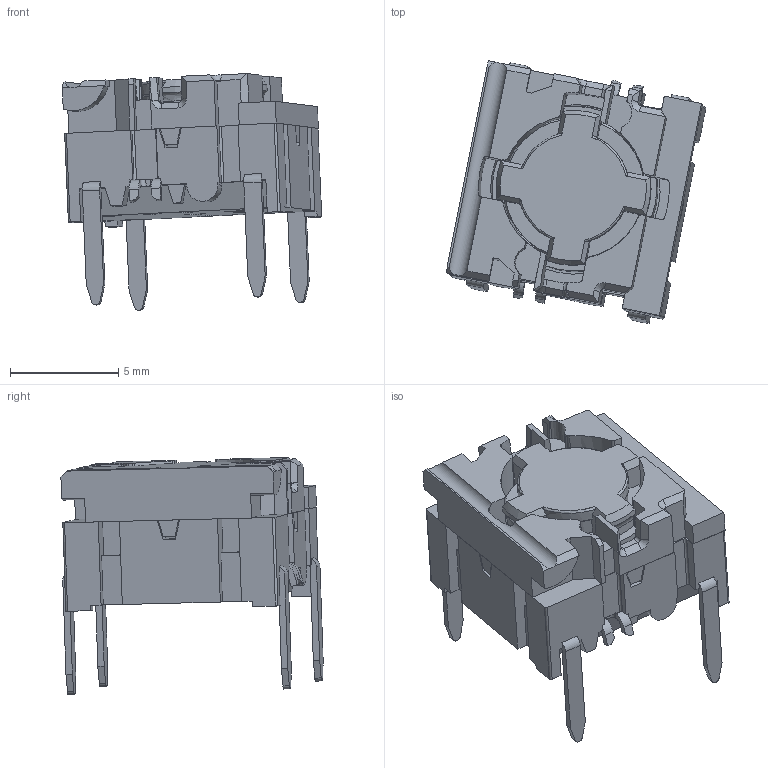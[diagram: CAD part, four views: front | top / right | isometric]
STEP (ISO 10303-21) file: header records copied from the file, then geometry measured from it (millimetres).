
FILE_DESCRIPTION((''),'2;1');
FILE_NAME('C:\Users\fd.MEC-AS\Desktop\Poul Johanssen Maskinfabrik\5GTH9xx.stp','2013-01-21T14:36:10',('fd'),(''),'Autodesk Inventor 2012','Autodesk Inventor 2012','');
FILE_SCHEMA(('AUTOMOTIVE_DESIGN { 1 0 10303 214 1 1 1 1 }'));
Length unit declared in the file: millimetre
Products named in the file (7): 5GTH9xx; 46000-ht-hus-th; 46000_hus_HT; 46120-terminal-midt; 26120-T-ben; act; splåg
Assembly tree (9 placements, depth 3):
  5GTH9xx
    46000-ht-hus-th
      46000_hus_HT
      46120-terminal-midt
      26120-T-ben  x4
    act
    splåg
Bounding box: 11.99 x 12.12 x 10.95 mm (x, y, z)
Volume: 412.5 mm3; surface area: 1156.4 mm2
Topology: 11 solids, 11 shells, 920 faces, 2583 edges, 1702 vertices
Faces by surface type: plane 576, cylinder 207, bspline 55, cone 45, torus 34, sphere 3
Full cylindrical faces by diameter (mm): 0.895 x1, 1 x3, 2.8 x1, 4.726 x1, 6.5 x1, 7.44 x1
Entity records: 29749 total; most frequent: CARTESIAN_POINT 6834, ORIENTED_EDGE 4914, DIRECTION 4484, EDGE_CURVE 2457, VERTEX_POINT 1631, VECTOR 1626, LINE 1626, AXIS2_PLACEMENT_3D 1429
